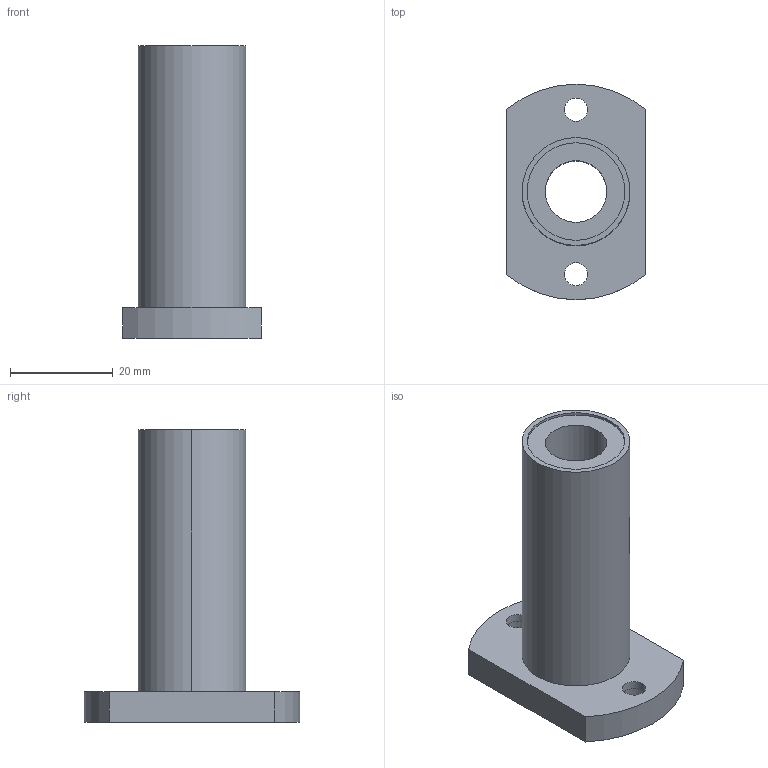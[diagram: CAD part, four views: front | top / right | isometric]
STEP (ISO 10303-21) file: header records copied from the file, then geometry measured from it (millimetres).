
FILE_DESCRIPTION((''),'2;1');
FILE_NAME('C:\Documents and Settings\ｿﾀﾀ蠑ｷ1\ｹﾙﾅﾁ ﾈｭｸ饅\ｺﾎﾇｰﾆﾄﾀﾏ\ﾁｦﾇｰ\LMH__LUU\LMH12LUU.stp','2005-06-15T10:43:02',('ｿﾀﾀ蠑ｷ1'),(''),'Autodesk Inventor 9','Autodesk Inventor 9','');
FILE_SCHEMA(('AUTOMOTIVE_DESIGN { 1 0 10303 214 1 1 1 1 }'));
Length unit declared in the file: millimetre
Products named in the file (1): LMH__
Bounding box: 27 x 42 x 57 mm (x, y, z)
Volume: 16738.5 mm3; surface area: 8364.4 mm2
Topology: 1 solids, 1 shells, 30 faces, 66 edges, 44 vertices
Faces by surface type: cylinder 12, bspline 10, plane 8
Entity records: 989 total; most frequent: CARTESIAN_POINT 283, DIRECTION 148, ORIENTED_EDGE 132, EDGE_CURVE 66, AXIS2_PLACEMENT_3D 61, VERTEX_POINT 44, EDGE_LOOP 42, CIRCLE 40
